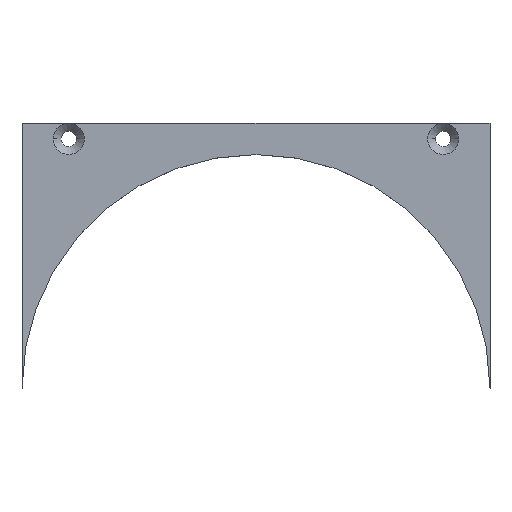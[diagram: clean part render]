
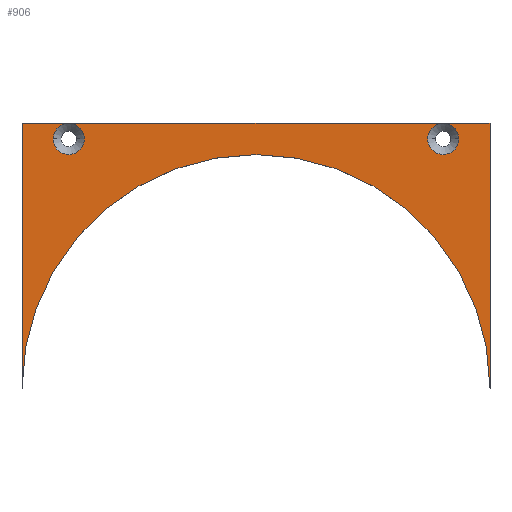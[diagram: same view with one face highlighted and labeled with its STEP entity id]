
A CAD part, top view. The second image highlights one B-rep face of the part: STEP entity #906.
In plain terms, the highlighted planar face has unit normal (0, 0, 1).
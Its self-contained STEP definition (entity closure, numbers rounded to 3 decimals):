
#220 = AXIS2_PLACEMENT_3D ( 'NONE', #1360, #1361, #1364 ) ;
#222 = AXIS2_PLACEMENT_3D ( 'NONE', #1337, #1347, #1355 ) ;
#226 = AXIS2_PLACEMENT_3D ( 'NONE', #2862, #2837, #2879 ) ;
#235 = AXIS2_PLACEMENT_3D ( 'NONE', #2861, #2882, #2856 ) ;
#240 = AXIS2_PLACEMENT_3D ( 'NONE', #2784, #2799, #2801 ) ;
#243 = AXIS2_PLACEMENT_3D ( 'NONE', #1442, #1453, #1454 ) ;
#253 = AXIS2_PLACEMENT_3D ( 'NONE', #2090, #2078, #2045 ) ;
#341 = EDGE_LOOP ( 'NONE', ( #527, #556, #455, #554, #549, #512, #500, #458, #506, #535, #518, #519 ) ) ;
#455 = ORIENTED_EDGE ( 'NONE', *, *, #2328, .T. ) ;
#458 = ORIENTED_EDGE ( 'NONE', *, *, #2312, .T. ) ;
#500 = ORIENTED_EDGE ( 'NONE', *, *, #2334, .T. ) ;
#506 = ORIENTED_EDGE ( 'NONE', *, *, #2359, .T. ) ;
#512 = ORIENTED_EDGE ( 'NONE', *, *, #2373, .T. ) ;
#518 = ORIENTED_EDGE ( 'NONE', *, *, #2307, .T. ) ;
#519 = ORIENTED_EDGE ( 'NONE', *, *, #2322, .T. ) ;
#527 = ORIENTED_EDGE ( 'NONE', *, *, #2392, .T. ) ;
#535 = ORIENTED_EDGE ( 'NONE', *, *, #2381, .T. ) ;
#549 = ORIENTED_EDGE ( 'NONE', *, *, #2384, .T. ) ;
#554 = ORIENTED_EDGE ( 'NONE', *, *, #2399, .T. ) ;
#556 = ORIENTED_EDGE ( 'NONE', *, *, #2332, .T. ) ;
#906 = ADVANCED_FACE ( 'NONE', ( #3403 ), #2547, .T. ) ;
#1182 = CARTESIAN_POINT ( 'NONE',  ( 15., 0., 2. ) ) ;
#1337 = CARTESIAN_POINT ( 'NONE',  ( 0., 0., 2. ) ) ;
#1347 = DIRECTION ( 'NONE',  ( 0., 0., -1. ) ) ;
#1355 = DIRECTION ( 'NONE',  ( 1., 0., 0. ) ) ;
#1360 = CARTESIAN_POINT ( 'NONE',  ( -12., 16., 2. ) ) ;
#1361 = DIRECTION ( 'NONE',  ( 0., 0., -1. ) ) ;
#1364 = DIRECTION ( 'NONE',  ( 1., 0., 0. ) ) ;
#1394 = CARTESIAN_POINT ( 'NONE',  ( 15., 17., 2. ) ) ;
#1422 = DIRECTION ( 'NONE',  ( 0., 1., 0. ) ) ;
#1442 = CARTESIAN_POINT ( 'NONE',  ( 12., 16., 2. ) ) ;
#1453 = DIRECTION ( 'NONE',  ( 0., 0., -1. ) ) ;
#1454 = DIRECTION ( 'NONE',  ( 1., 0., 0. ) ) ;
#1574 = VERTEX_POINT ( 'NONE', #3240 ) ;
#1636 = VERTEX_POINT ( 'NONE', #3222 ) ;
#1641 = VERTEX_POINT ( 'NONE', #3242 ) ;
#1643 = VERTEX_POINT ( 'NONE', #3243 ) ;
#1660 = VERTEX_POINT ( 'NONE', #3259 ) ;
#1661 = VERTEX_POINT ( 'NONE', #3291 ) ;
#1676 = VERTEX_POINT ( 'NONE', #3253 ) ;
#1677 = VERTEX_POINT ( 'NONE', #3277 ) ;
#1681 = VERTEX_POINT ( 'NONE', #3302 ) ;
#1748 = VECTOR ( 'NONE', #2225, 1000. ) ;
#1750 = CIRCLE ( 'NONE', #253, 1. ) ;
#1763 = LINE ( 'NONE', #2195, #1748 ) ;
#1766 = VECTOR ( 'NONE', #2243, 1000. ) ;
#1767 = LINE ( 'NONE', #2034, #1768 ) ;
#1768 = VECTOR ( 'NONE', #2022, 1000. ) ;
#1772 = CIRCLE ( 'NONE', #240, 1. ) ;
#1786 = LINE ( 'NONE', #2230, #1766 ) ;
#2022 = DIRECTION ( 'NONE',  ( -1., 0., 0. ) ) ;
#2034 = CARTESIAN_POINT ( 'NONE',  ( 0., 17., 2. ) ) ;
#2045 = DIRECTION ( 'NONE',  ( 1., 0., 0. ) ) ;
#2078 = DIRECTION ( 'NONE',  ( 0., 0., -1. ) ) ;
#2090 = CARTESIAN_POINT ( 'NONE',  ( 12., 16., 2. ) ) ;
#2195 = CARTESIAN_POINT ( 'NONE',  ( 0., 17., 2. ) ) ;
#2225 = DIRECTION ( 'NONE',  ( -1., 0., 0. ) ) ;
#2230 = CARTESIAN_POINT ( 'NONE',  ( -15., 17., 2. ) ) ;
#2243 = DIRECTION ( 'NONE',  ( 0., -1., 0. ) ) ;
#2307 = EDGE_CURVE ( 'NONE', #1681, #2742, #3584, .T. ) ;
#2312 = EDGE_CURVE ( 'NONE', #1643, #1677, #3587, .T. ) ;
#2322 = EDGE_CURVE ( 'NONE', #2742, #1574, #3606, .T. ) ;
#2328 = EDGE_CURVE ( 'NONE', #1661, #1660, #3603, .T. ) ;
#2332 = EDGE_CURVE ( 'NONE', #1676, #1661, #3597, .T. ) ;
#2334 = EDGE_CURVE ( 'NONE', #1641, #1643, #3607, .T. ) ;
#2359 = EDGE_CURVE ( 'NONE', #1677, #1636, #3629, .T. ) ;
#2373 = EDGE_CURVE ( 'NONE', #1677, #1641, #1772, .T. ) ;
#2381 = EDGE_CURVE ( 'NONE', #1636, #1681, #1786, .T. ) ;
#2384 = EDGE_CURVE ( 'NONE', #1676, #1677, #1763, .T. ) ;
#2392 = EDGE_CURVE ( 'NONE', #1574, #1676, #1767, .T. ) ;
#2399 = EDGE_CURVE ( 'NONE', #1660, #1676, #1750, .T. ) ;
#2475 = AXIS2_PLACEMENT_3D ( 'NONE', #2545, #2509, #2522 ) ;
#2509 = DIRECTION ( 'NONE',  ( 0., 0., 1. ) ) ;
#2522 = DIRECTION ( 'NONE',  ( 1., 0., 0. ) ) ;
#2545 = CARTESIAN_POINT ( 'NONE',  ( 0., 0., 2. ) ) ;
#2547 = PLANE ( 'NONE',  #2475 ) ;
#2742 = VERTEX_POINT ( 'NONE', #1182 ) ;
#2784 = CARTESIAN_POINT ( 'NONE',  ( -12., 16., 2. ) ) ;
#2799 = DIRECTION ( 'NONE',  ( 0., 0., -1. ) ) ;
#2801 = DIRECTION ( 'NONE',  ( 1., 0., 0. ) ) ;
#2837 = DIRECTION ( 'NONE',  ( 0., 0., -1. ) ) ;
#2856 = DIRECTION ( 'NONE',  ( 1., 0., 0. ) ) ;
#2861 = CARTESIAN_POINT ( 'NONE',  ( -12., 16., 2. ) ) ;
#2862 = CARTESIAN_POINT ( 'NONE',  ( 12., 16., 2. ) ) ;
#2879 = DIRECTION ( 'NONE',  ( 1., 0., 0. ) ) ;
#2882 = DIRECTION ( 'NONE',  ( 0., 0., -1. ) ) ;
#3006 = CARTESIAN_POINT ( 'NONE',  ( 0., 17., 2. ) ) ;
#3012 = DIRECTION ( 'NONE',  ( -1., 0., 0. ) ) ;
#3222 = CARTESIAN_POINT ( 'NONE',  ( -15., 17., 2. ) ) ;
#3240 = CARTESIAN_POINT ( 'NONE',  ( 15., 17., 2. ) ) ;
#3242 = CARTESIAN_POINT ( 'NONE',  ( -11., 16., 2. ) ) ;
#3243 = CARTESIAN_POINT ( 'NONE',  ( -13., 16., 2. ) ) ;
#3253 = CARTESIAN_POINT ( 'NONE',  ( 12., 17., 2. ) ) ;
#3259 = CARTESIAN_POINT ( 'NONE',  ( 11., 16., 2. ) ) ;
#3277 = CARTESIAN_POINT ( 'NONE',  ( -12., 17., 2. ) ) ;
#3291 = CARTESIAN_POINT ( 'NONE',  ( 13., 16., 2. ) ) ;
#3302 = CARTESIAN_POINT ( 'NONE',  ( -15., 0., 2. ) ) ;
#3403 = FACE_OUTER_BOUND ( 'NONE', #341, .T. ) ;
#3571 = VECTOR ( 'NONE', #1422, 1000. ) ;
#3584 = CIRCLE ( 'NONE', #222, 15. ) ;
#3587 = CIRCLE ( 'NONE', #220, 1. ) ;
#3597 = CIRCLE ( 'NONE', #226, 1. ) ;
#3603 = CIRCLE ( 'NONE', #243, 1. ) ;
#3606 = LINE ( 'NONE', #1394, #3571 ) ;
#3607 = CIRCLE ( 'NONE', #235, 1. ) ;
#3629 = LINE ( 'NONE', #3006, #3634 ) ;
#3634 = VECTOR ( 'NONE', #3012, 1000. ) ;
